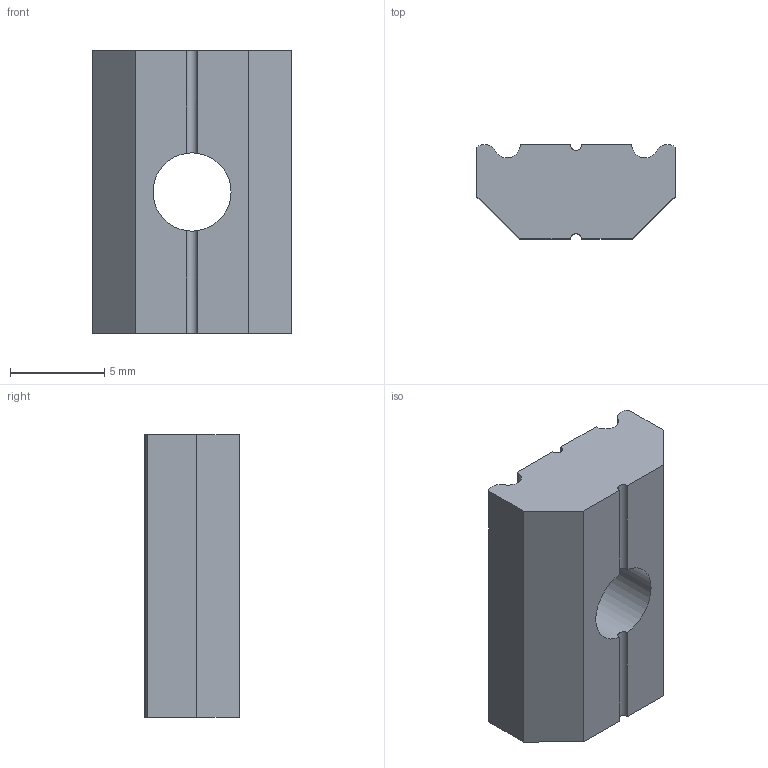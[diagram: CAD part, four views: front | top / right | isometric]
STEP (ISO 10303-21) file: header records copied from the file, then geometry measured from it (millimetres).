
FILE_DESCRIPTION(/* description */ ('X Channel Nut M5 Thread'),/* implementation_level */ '2;1');
FILE_NAME(/* name */ 'CN-5.STEP',/* time_stamp */ '2026-02-10T14:17:12-05:00',/* author */ ('Design2'),/* organization */ ('CCS Design LLC'),/* preprocessor_version */ 'ST-DEVELOPER v20',/* originating_system */ 'Autodesk Inventor 2025',/* authorisation */ '');
FILE_SCHEMA (('AUTOMOTIVE_DESIGN { 1 0 10303 214 3 1 1 }'));
Length unit declared in the file: inch
Products named in the file (1): CN-5
Bounding box: 10.5 x 5.01 x 15 mm (x, y, z)
Volume: 616.7 mm3; surface area: 578.5 mm2
Topology: 1 solids, 1 shells, 19 faces, 57 edges, 38 vertices
Faces by surface type: plane 10, cylinder 9
Full cylindrical faces by diameter (mm): 4.14 x1
Entity records: 758 total; most frequent: CARTESIAN_POINT 183, ORIENTED_EDGE 114, DIRECTION 111, EDGE_CURVE 57, VERTEX_POINT 38, AXIS2_PLACEMENT_3D 38, LINE 35, VECTOR 35
